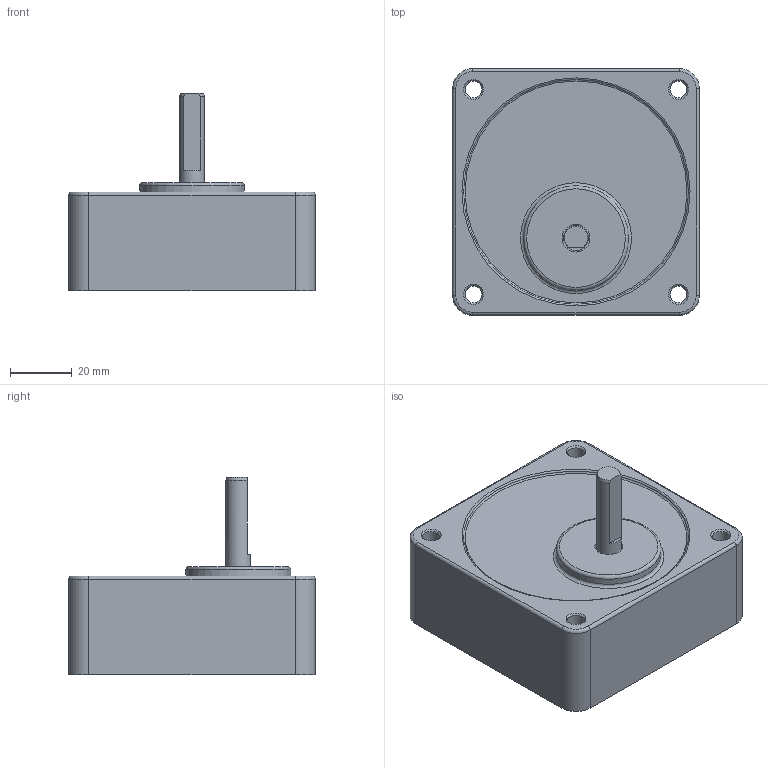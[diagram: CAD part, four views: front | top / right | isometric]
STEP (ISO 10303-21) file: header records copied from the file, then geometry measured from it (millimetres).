
FILE_DESCRIPTION((''),'2;1');
FILE_NAME('D:\미주향3D\GEAR HEAD\GEARHEAD\ㅁ80 25W\S8DA3~18.stp','2013-12-13T13:11:07',('leebh'),(''),'Autodesk Inventor 2011','Autodesk Inventor 2011','');
FILE_SCHEMA(('AUTOMOTIVE_DESIGN { 1 0 10303 214 1 1 1 1 }'));
Length unit declared in the file: millimetre
Products named in the file (1): 부품4
Bounding box: 80 x 80 x 64 mm (x, y, z)
Volume: 179650.5 mm3; surface area: 27370.1 mm2
Topology: 1 solids, 1 shells, 44 faces, 93 edges, 57 vertices
Faces by surface type: cylinder 17, plane 14, torus 8, cone 5
Full cylindrical faces by diameter (mm): 5.5 x4, 8 x2, 9 x1, 34 x1, 73 x1
Entity records: 1132 total; most frequent: DIRECTION 212, CARTESIAN_POINT 180, ORIENTED_EDGE 150, AXIS2_PLACEMENT_3D 94, EDGE_CURVE 75, EDGE_LOOP 75, VERTEX_POINT 56, CIRCLE 49
